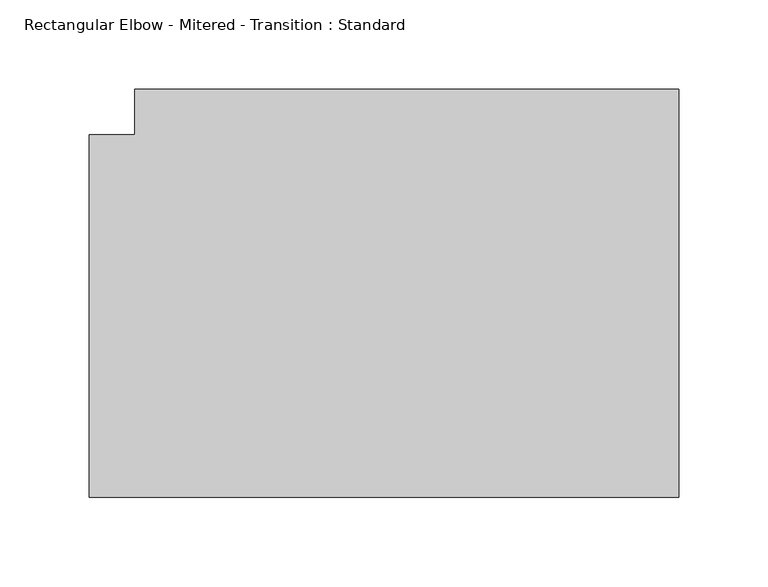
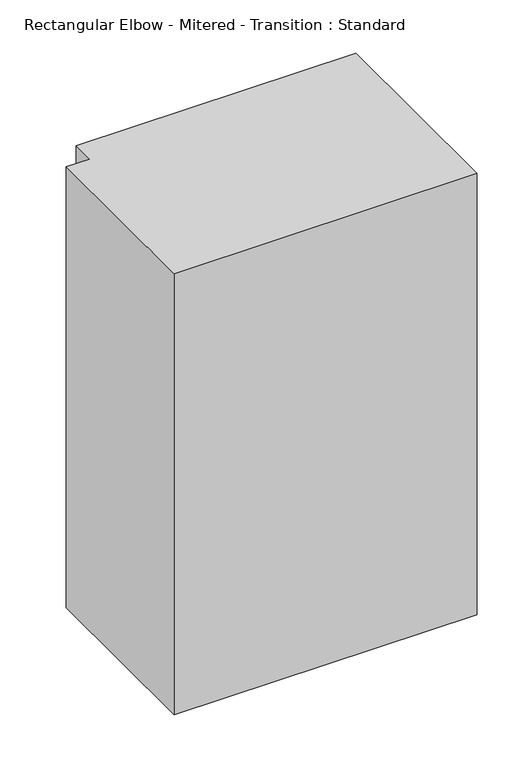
"""IFC4 building model written with IfcOpenShell, lengths in millimetres: duct fitting geometry, Rectangular Elbow - Mitered - Transition : Standard."""

from ifc_helpers import new_model, si_unit, frame, origin, place, context, project, spatial, polyline, outline, extrude, source, transform, mapped, element, save


def rectangular_elbow_mitered_transition_standard_1af59134(model_context):
    return source(origin(), model_context, "Body", "SweptSolid", [
        extrude(outline(polyline([(-152.4, 101.6), (-152.4, 127.0), (152.4, 127.0), (152.4, -101.6), (-177.8, -101.6), (-177.8, 101.6), (-152.4, 101.6)])), frame((0.0, 0.0, -254.0), z_axis=(0.0, 0.0, 1.0), x_axis=(1.0, 0.0, 0.0)), (0.0, 0.0, 1.0), 508.0),
    ])


if __name__ == "__main__":
    model = new_model("IFC4")
    model_context = context("Model", 3, world=origin())
    ifc_project = project(units=[si_unit("LENGTHUNIT", "METRE", prefix="MILLI")], contexts=[model_context])
    site = spatial("IfcSite", under=ifc_project)
    building = spatial("IfcBuilding", under=site)
    placement = place(None, origin())
    rectangular_elbow_mitered_transition_standard_shape = rectangular_elbow_mitered_transition_standard_1af59134(model_context)
    element("IfcDuctFitting", 1, ObjectType="Rectangular Elbow - Mitered - Transition : Standard", at=placement, inside=building, context=model_context, shape_type="MappedRepresentation", body=[
        mapped(rectangular_elbow_mitered_transition_standard_shape, transform((0.0, 0.0, 0.0), x_axis=(1.0, 0.0, 0.0), y_axis=(0.0, 1.0, 0.0), z_axis=(0.0, 0.0, 1.0))),
    ])
    save(model, "model.ifc")
